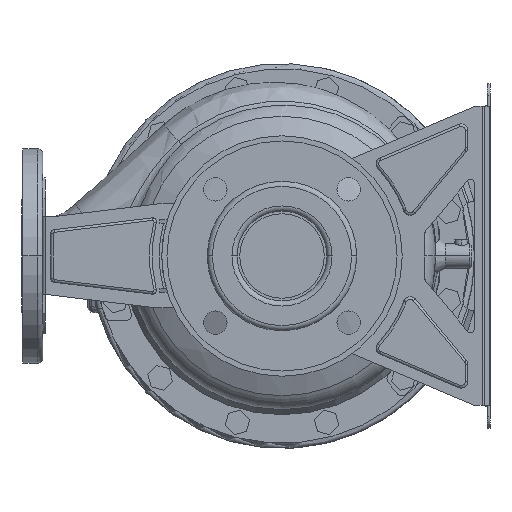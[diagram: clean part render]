
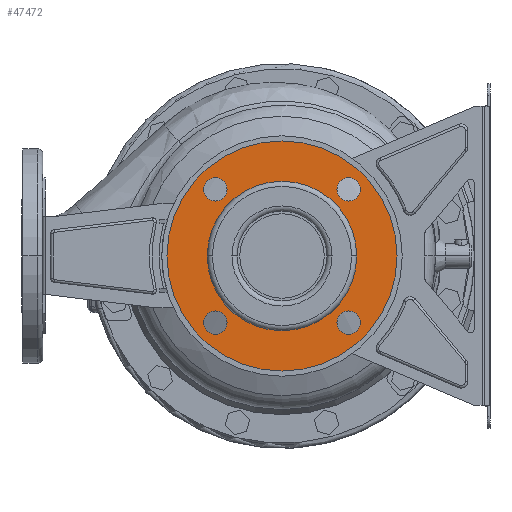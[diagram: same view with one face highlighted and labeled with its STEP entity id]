
A CAD part, front view. The second image highlights one B-rep face of the part: STEP entity #47472.
In plain terms, the highlighted planar face has unit normal (0, -1, 0).
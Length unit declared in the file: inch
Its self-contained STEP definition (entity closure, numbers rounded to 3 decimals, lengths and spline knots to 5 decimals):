
#396 = EDGE_CURVE ( 'NONE', #11037, #121017, #23294, .T. ) ;
#701 = EDGE_CURVE ( 'NONE', #2816, #104259, #8133, .T. ) ;
#1935 = AXIS2_PLACEMENT_3D ( 'NONE', #60956, #35043, #13115 ) ;
#2816 = VERTEX_POINT ( 'NONE', #138862 ) ;
#5554 = CIRCLE ( 'NONE', #96163, 3.48425 ) ;
#8133 = CIRCLE ( 'NONE', #85805, 3.48425 ) ;
#9086 = DIRECTION ( 'NONE',  ( 0., 1., 0. ) ) ;
#10091 = EDGE_CURVE ( 'NONE', #124891, #126170, #13139, .T. ) ;
#10777 = EDGE_LOOP ( 'NONE', ( #55624, #109035 ) ) ;
#11037 = VERTEX_POINT ( 'NONE', #19869 ) ;
#11684 = CIRCLE ( 'NONE', #102274, 0.35433 ) ;
#11760 = EDGE_CURVE ( 'NONE', #151853, #159025, #112414, .T. ) ;
#13115 = DIRECTION ( 'NONE',  ( -1., 0., 0. ) ) ;
#13139 = CIRCLE ( 'NONE', #33857, 0.35433 ) ;
#13207 = DIRECTION ( 'NONE',  ( 0., 1., 0. ) ) ;
#13877 = CARTESIAN_POINT ( 'NONE',  ( -2.01832, -8.58268, 2.01832 ) ) ;
#14566 = DIRECTION ( 'NONE',  ( 0., 1., 0. ) ) ;
#16835 = DIRECTION ( 'NONE',  ( -1., 0., 0. ) ) ;
#19223 = CARTESIAN_POINT ( 'NONE',  ( -2.01832, -8.58268, -2.01832 ) ) ;
#19869 = CARTESIAN_POINT ( 'NONE',  ( 2.01832, -8.58268, -2.37265 ) ) ;
#21147 = ORIENTED_EDGE ( 'NONE', *, *, #99373, .F. ) ;
#23294 = CIRCLE ( 'NONE', #64740, 0.35433 ) ;
#23631 = CARTESIAN_POINT ( 'NONE',  ( 2.01832, -8.58268, -1.66399 ) ) ;
#24318 = EDGE_LOOP ( 'NONE', ( #145476, #91080 ) ) ;
#28192 = FACE_BOUND ( 'NONE', #10777, .T. ) ;
#28257 = AXIS2_PLACEMENT_3D ( 'NONE', #137729, #14566, #39677 ) ;
#28970 = CARTESIAN_POINT ( 'NONE',  ( -2.37265, -8.58268, -2.01832 ) ) ;
#29778 = FACE_BOUND ( 'NONE', #93439, .T. ) ;
#32544 = DIRECTION ( 'NONE',  ( -1., 0., 0. ) ) ;
#33857 = AXIS2_PLACEMENT_3D ( 'NONE', #128794, #42130, #127989 ) ;
#35043 = DIRECTION ( 'NONE',  ( 0., 1., 0. ) ) ;
#37369 = AXIS2_PLACEMENT_3D ( 'NONE', #62399, #98862, #111000 ) ;
#39677 = DIRECTION ( 'NONE',  ( 1., 0., 0. ) ) ;
#40556 = EDGE_CURVE ( 'NONE', #49656, #159917, #96568, .T. ) ;
#41395 = EDGE_CURVE ( 'NONE', #123338, #101426, #123535, .T. ) ;
#42130 = DIRECTION ( 'NONE',  ( 0., 1., 0. ) ) ;
#42762 = FACE_BOUND ( 'NONE', #115263, .T. ) ;
#44545 = DIRECTION ( 'NONE',  ( 0., -1., 0. ) ) ;
#47472 = ADVANCED_FACE ( 'NONE', ( #89809, #139228, #29778, #42762, #28192, #54132 ), #126262, .F. ) ;
#49656 = VERTEX_POINT ( 'NONE', #122953 ) ;
#51228 = AXIS2_PLACEMENT_3D ( 'NONE', #58550, #9086, #97407 ) ;
#53512 = AXIS2_PLACEMENT_3D ( 'NONE', #13877, #73909, #75516 ) ;
#53968 = DIRECTION ( 'NONE',  ( 0., 1., 0. ) ) ;
#54132 = FACE_BOUND ( 'NONE', #69753, .T. ) ;
#54553 = CARTESIAN_POINT ( 'NONE',  ( -2.26378, -8.58268, 0. ) ) ;
#55260 = CARTESIAN_POINT ( 'NONE',  ( 0., -8.58268, 0. ) ) ;
#55624 = ORIENTED_EDGE ( 'NONE', *, *, #41395, .T. ) ;
#57368 = CARTESIAN_POINT ( 'NONE',  ( -1.66399, -8.58268, -2.01832 ) ) ;
#58550 = CARTESIAN_POINT ( 'NONE',  ( 2.01832, -8.58268, -2.01832 ) ) ;
#60956 = CARTESIAN_POINT ( 'NONE',  ( -2.01832, -8.58268, -2.01832 ) ) ;
#62399 = CARTESIAN_POINT ( 'NONE',  ( 0., -8.58268, 0. ) ) ;
#64740 = AXIS2_PLACEMENT_3D ( 'NONE', #73217, #13207, #110466 ) ;
#65212 = ORIENTED_EDGE ( 'NONE', *, *, #396, .T. ) ;
#66723 = CIRCLE ( 'NONE', #51228, 0.35433 ) ;
#69753 = EDGE_LOOP ( 'NONE', ( #149549, #157264 ) ) ;
#73217 = CARTESIAN_POINT ( 'NONE',  ( 2.01832, -8.58268, -2.01832 ) ) ;
#73909 = DIRECTION ( 'NONE',  ( 0., 1., 0. ) ) ;
#75516 = DIRECTION ( 'NONE',  ( 0., 0., 1. ) ) ;
#77658 = CARTESIAN_POINT ( 'NONE',  ( 0., -8.58268, 0. ) ) ;
#79880 = CARTESIAN_POINT ( 'NONE',  ( -2.01832, -8.58268, 2.01832 ) ) ;
#85805 = AXIS2_PLACEMENT_3D ( 'NONE', #155562, #44545, #97132 ) ;
#87644 = CIRCLE ( 'NONE', #105792, 2.26378 ) ;
#89809 = FACE_OUTER_BOUND ( 'NONE', #102491, .T. ) ;
#91080 = ORIENTED_EDGE ( 'NONE', *, *, #105996, .T. ) ;
#92728 = EDGE_CURVE ( 'NONE', #126170, #124891, #157742, .T. ) ;
#93439 = EDGE_LOOP ( 'NONE', ( #98849, #114678 ) ) ;
#94093 = CARTESIAN_POINT ( 'NONE',  ( 3.48425, -8.58268, 0. ) ) ;
#96163 = AXIS2_PLACEMENT_3D ( 'NONE', #97860, #147289, #123764 ) ;
#96568 = CIRCLE ( 'NONE', #132865, 0.35433 ) ;
#97132 = DIRECTION ( 'NONE',  ( -1., 0., 0. ) ) ;
#97407 = DIRECTION ( 'NONE',  ( 0., 0., 1. ) ) ;
#97860 = CARTESIAN_POINT ( 'NONE',  ( 0., -8.58268, 0. ) ) ;
#97996 = CARTESIAN_POINT ( 'NONE',  ( 1.66399, -8.58268, 2.01832 ) ) ;
#98849 = ORIENTED_EDGE ( 'NONE', *, *, #92728, .T. ) ;
#98862 = DIRECTION ( 'NONE',  ( 0., -1., 0. ) ) ;
#99373 = EDGE_CURVE ( 'NONE', #2816, #104259, #5554, .T. ) ;
#101426 = VERTEX_POINT ( 'NONE', #57368 ) ;
#102274 = AXIS2_PLACEMENT_3D ( 'NONE', #19223, #143207, #115686 ) ;
#102491 = EDGE_LOOP ( 'NONE', ( #21147, #115414 ) ) ;
#103385 = DIRECTION ( 'NONE',  ( 0., 0., -1. ) ) ;
#104259 = VERTEX_POINT ( 'NONE', #94093 ) ;
#105792 = AXIS2_PLACEMENT_3D ( 'NONE', #55260, #143566, #32544 ) ;
#105996 = EDGE_CURVE ( 'NONE', #151853, #159025, #87644, .T. ) ;
#109035 = ORIENTED_EDGE ( 'NONE', *, *, #119705, .T. ) ;
#110466 = DIRECTION ( 'NONE',  ( 0., 0., -1. ) ) ;
#111000 = DIRECTION ( 'NONE',  ( -1., 0., 0. ) ) ;
#112414 = CIRCLE ( 'NONE', #37369, 2.26378 ) ;
#113654 = CARTESIAN_POINT ( 'NONE',  ( 2.26378, -8.58268, 0. ) ) ;
#114678 = ORIENTED_EDGE ( 'NONE', *, *, #10091, .T. ) ;
#115263 = EDGE_LOOP ( 'NONE', ( #65212, #158769 ) ) ;
#115414 = ORIENTED_EDGE ( 'NONE', *, *, #701, .T. ) ;
#115686 = DIRECTION ( 'NONE',  ( 1., 0., 0. ) ) ;
#118670 = CARTESIAN_POINT ( 'NONE',  ( -2.01832, -8.58268, 2.37265 ) ) ;
#119705 = EDGE_CURVE ( 'NONE', #101426, #123338, #11684, .T. ) ;
#121017 = VERTEX_POINT ( 'NONE', #23631 ) ;
#122953 = CARTESIAN_POINT ( 'NONE',  ( -2.01832, -8.58268, 1.66399 ) ) ;
#123338 = VERTEX_POINT ( 'NONE', #28970 ) ;
#123535 = CIRCLE ( 'NONE', #1935, 0.35433 ) ;
#123764 = DIRECTION ( 'NONE',  ( -1., 0., 0. ) ) ;
#124891 = VERTEX_POINT ( 'NONE', #97996 ) ;
#126170 = VERTEX_POINT ( 'NONE', #141781 ) ;
#126262 = PLANE ( 'NONE',  #160328 ) ;
#127055 = DIRECTION ( 'NONE',  ( 0., 1., 0. ) ) ;
#127989 = DIRECTION ( 'NONE',  ( -1., 0., 0. ) ) ;
#128794 = CARTESIAN_POINT ( 'NONE',  ( 2.01832, -8.58268, 2.01832 ) ) ;
#132865 = AXIS2_PLACEMENT_3D ( 'NONE', #79880, #53968, #103385 ) ;
#137729 = CARTESIAN_POINT ( 'NONE',  ( 2.01832, -8.58268, 2.01832 ) ) ;
#138862 = CARTESIAN_POINT ( 'NONE',  ( -3.48425, -8.58268, 0. ) ) ;
#139228 = FACE_BOUND ( 'NONE', #24318, .T. ) ;
#141781 = CARTESIAN_POINT ( 'NONE',  ( 2.37265, -8.58268, 2.01832 ) ) ;
#142130 = EDGE_CURVE ( 'NONE', #121017, #11037, #66723, .T. ) ;
#143207 = DIRECTION ( 'NONE',  ( 0., 1., 0. ) ) ;
#143566 = DIRECTION ( 'NONE',  ( 0., 1., 0. ) ) ;
#145476 = ORIENTED_EDGE ( 'NONE', *, *, #11760, .F. ) ;
#147289 = DIRECTION ( 'NONE',  ( 0., 1., 0. ) ) ;
#149549 = ORIENTED_EDGE ( 'NONE', *, *, #152132, .T. ) ;
#151853 = VERTEX_POINT ( 'NONE', #54553 ) ;
#152132 = EDGE_CURVE ( 'NONE', #159917, #49656, #156949, .T. ) ;
#155562 = CARTESIAN_POINT ( 'NONE',  ( 0., -8.58268, 0. ) ) ;
#156949 = CIRCLE ( 'NONE', #53512, 0.35433 ) ;
#157264 = ORIENTED_EDGE ( 'NONE', *, *, #40556, .T. ) ;
#157742 = CIRCLE ( 'NONE', #28257, 0.35433 ) ;
#158769 = ORIENTED_EDGE ( 'NONE', *, *, #142130, .T. ) ;
#159025 = VERTEX_POINT ( 'NONE', #113654 ) ;
#159917 = VERTEX_POINT ( 'NONE', #118670 ) ;
#160328 = AXIS2_PLACEMENT_3D ( 'NONE', #77658, #127055, #16835 ) ;
